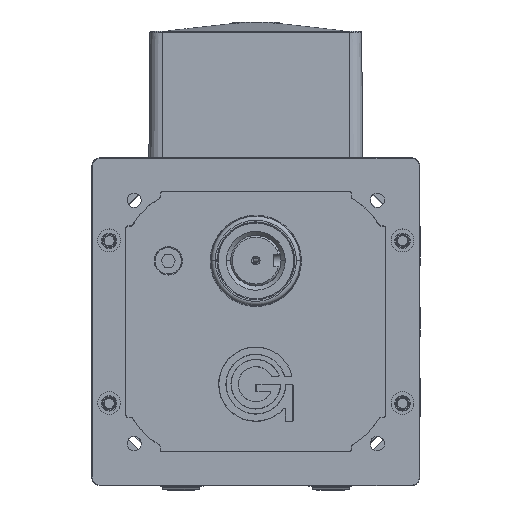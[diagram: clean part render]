
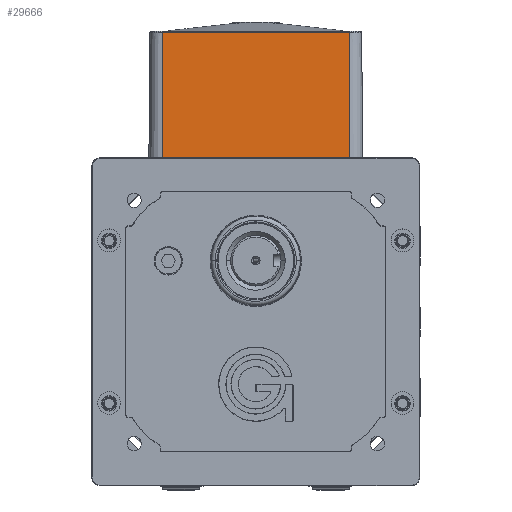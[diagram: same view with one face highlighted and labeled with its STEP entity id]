
A CAD part, top view. The second image highlights one B-rep face of the part: STEP entity #29666.
In plain terms, the highlighted planar face has unit normal (0, 0.009, 1).
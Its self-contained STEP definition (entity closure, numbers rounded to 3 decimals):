
#65 = DIRECTION ( 'NONE',  ( -1., 0., 0. ) ) ;
#574 = VERTEX_POINT ( 'NONE', #27554 ) ;
#1164 = PLANE ( 'NONE',  #1864 ) ;
#1864 = AXIS2_PLACEMENT_3D ( 'NONE', #9935, #51810, #51641 ) ;
#5113 = LINE ( 'NONE', #34946, #14967 ) ;
#6959 = ORIENTED_EDGE ( 'NONE', *, *, #31105, .T. ) ;
#7544 = EDGE_CURVE ( 'NONE', #574, #21737, #36937, .T. ) ;
#9935 = CARTESIAN_POINT ( 'NONE',  ( 40.488, 56.134, -134.737 ) ) ;
#11425 = VECTOR ( 'NONE', #13911, 1000. ) ;
#13015 = VECTOR ( 'NONE', #34898, 1000. ) ;
#13867 = EDGE_CURVE ( 'NONE', #14820, #574, #27995, .T. ) ;
#13911 = DIRECTION ( 'NONE',  ( 0., 1., -0.009 ) ) ;
#14820 = VERTEX_POINT ( 'NONE', #20696 ) ;
#14967 = VECTOR ( 'NONE', #22348, 1000. ) ;
#16987 = VERTEX_POINT ( 'NONE', #27281 ) ;
#20346 = EDGE_CURVE ( 'NONE', #21737, #16987, #52809, .T. ) ;
#20664 = CARTESIAN_POINT ( 'NONE',  ( -35.408, 109.731, -135.205 ) ) ;
#20696 = CARTESIAN_POINT ( 'NONE',  ( 35.408, 56.134, -134.737 ) ) ;
#21737 = VERTEX_POINT ( 'NONE', #20664 ) ;
#22348 = DIRECTION ( 'NONE',  ( 1., 0., 0. ) ) ;
#25430 = CARTESIAN_POINT ( 'NONE',  ( 40.488, 109.731, -135.205 ) ) ;
#26148 = CARTESIAN_POINT ( 'NONE',  ( 35.408, 56.134, -134.737 ) ) ;
#27281 = CARTESIAN_POINT ( 'NONE',  ( -35.408, 56.134, -134.737 ) ) ;
#27554 = CARTESIAN_POINT ( 'NONE',  ( 35.408, 109.731, -135.205 ) ) ;
#27995 = LINE ( 'NONE', #26148, #11425 ) ;
#28177 = ORIENTED_EDGE ( 'NONE', *, *, #20346, .T. ) ;
#29666 = ADVANCED_FACE ( 'NONE', ( #33733 ), #1164, .T. ) ;
#31105 = EDGE_CURVE ( 'NONE', #16987, #14820, #5113, .T. ) ;
#33733 = FACE_OUTER_BOUND ( 'NONE', #48868, .T. ) ;
#34323 = CARTESIAN_POINT ( 'NONE',  ( -35.408, 56.134, -134.737 ) ) ;
#34898 = DIRECTION ( 'NONE',  ( 0., -1., 0.009 ) ) ;
#34946 = CARTESIAN_POINT ( 'NONE',  ( 40.488, 56.134, -134.737 ) ) ;
#36937 = LINE ( 'NONE', #25430, #46927 ) ;
#39048 = ORIENTED_EDGE ( 'NONE', *, *, #13867, .T. ) ;
#42936 = ORIENTED_EDGE ( 'NONE', *, *, #7544, .T. ) ;
#46927 = VECTOR ( 'NONE', #65, 1000. ) ;
#48868 = EDGE_LOOP ( 'NONE', ( #39048, #42936, #28177, #6959 ) ) ;
#51641 = DIRECTION ( 'NONE',  ( 0., 1., -0.009 ) ) ;
#51810 = DIRECTION ( 'NONE',  ( 0., 0.009, 1. ) ) ;
#52809 = LINE ( 'NONE', #34323, #13015 ) ;
